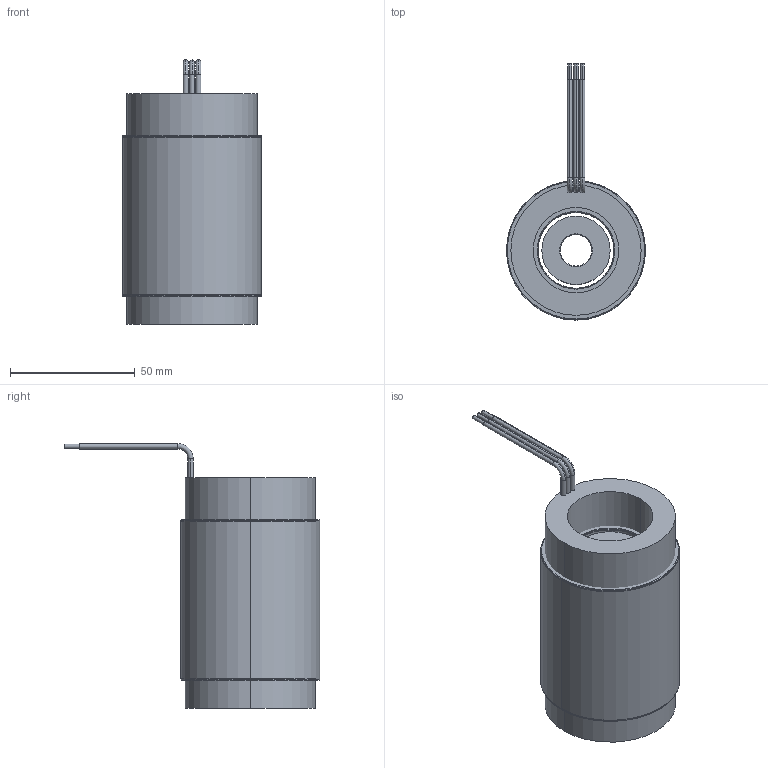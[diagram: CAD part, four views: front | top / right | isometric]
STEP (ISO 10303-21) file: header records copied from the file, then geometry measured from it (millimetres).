
FILE_DESCRIPTION (( 'STEP AP214' ), '1' );
FILE_NAME ('6100252-05.STEP', '2019-11-11T16:57:49', ( '' ), ( '' ), 'SwSTEP 2.0', 'SolidWorks 2016', '' );
FILE_SCHEMA (( 'AUTOMOTIVE_DESIGN' ));
Length unit declared in the file: millimetre
Products named in the file (9): 4250337-XX_4250337-03; 4450150-XX_4450150-03; 4150141-XX_4150141-03; COMP4500513-XX(COIL)_COMP4500513-05(COIL); 6100252-05; 4600087-00; 4500513-XX_4500513-05; 4400027-01
Assembly tree (10 placements, depth 4):
  6100252-05
    4500513-XX_4500513-05
      4450150-XX_4450150-03
        4450150-XX_4450150-03
        4400027-01  x2
        4600087-00  x2
      COMP4500513-XX(COIL)_COMP4500513-05(COIL)
    4250337-XX_4250337-03
      4150141-XX_4150141-03
Bounding box: 55.85 x 102.72 x 106.3 mm (x, y, z)
Volume: 254604 mm3; surface area: 72241.4 mm2
Topology: 7 solids, 7 shells, 84 faces, 174 edges, 110 vertices
Faces by surface type: cylinder 46, plane 20, torus 14, cone 4
Entity records: 2210 total; most frequent: DIRECTION 410, CARTESIAN_POINT 316, ORIENTED_EDGE 284, AXIS2_PLACEMENT_3D 184, EDGE_CURVE 142, CIRCLE 100, VERTEX_POINT 90, EDGE_LOOP 84
